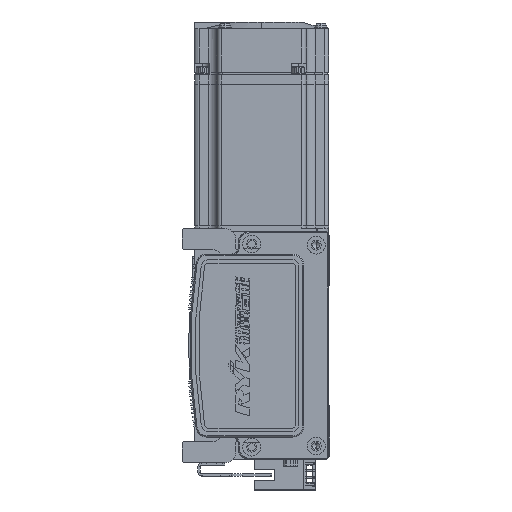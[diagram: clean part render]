
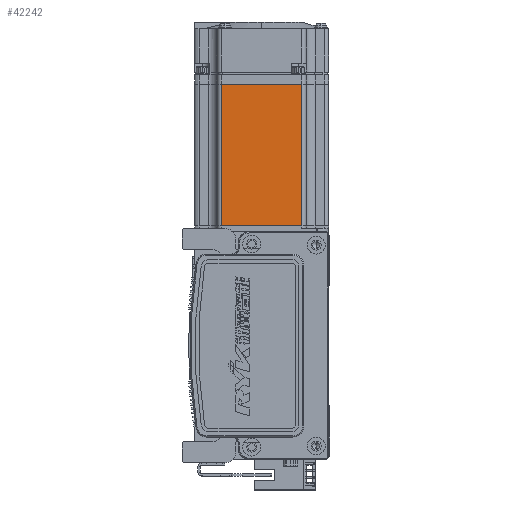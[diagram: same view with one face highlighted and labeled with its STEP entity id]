
A CAD part, left-side view. The second image highlights one B-rep face of the part: STEP entity #42242.
In plain terms, the highlighted planar face has unit normal (-1, 0, 0) as drawn and (0, 0, -1) by its records, which use the part's own axes.
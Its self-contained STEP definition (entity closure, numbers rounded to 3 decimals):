
#567 = CARTESIAN_POINT ( 'NONE',  ( -7.75, 25., -30. ) ) ;
#3927 = FACE_OUTER_BOUND ( 'NONE', #55044, .T. ) ;
#4394 = ORIENTED_EDGE ( 'NONE', *, *, #28924, .T. ) ;
#6753 = VECTOR ( 'NONE', #8641, 1000. ) ;
#8641 = DIRECTION ( 'NONE',  ( 0., 1., 0. ) ) ;
#11557 = VECTOR ( 'NONE', #16629, 1000. ) ;
#13981 = EDGE_CURVE ( 'NONE', #39796, #42177, #14021, .T. ) ;
#14021 = LINE ( 'NONE', #19621, #69891 ) ;
#16629 = DIRECTION ( 'NONE',  ( 0., -1., 0. ) ) ;
#19335 = DIRECTION ( 'NONE',  ( 0., 0., -1. ) ) ;
#19621 = CARTESIAN_POINT ( 'NONE',  ( -6.5, -18., -30. ) ) ;
#22497 = VECTOR ( 'NONE', #39057, 1000. ) ;
#26290 = CARTESIAN_POINT ( 'NONE',  ( -7.75, -18., -30. ) ) ;
#26339 = CARTESIAN_POINT ( 'NONE',  ( -6.5, 18., -30. ) ) ;
#26754 = DIRECTION ( 'NONE',  ( -1., 0., 0. ) ) ;
#28924 = EDGE_CURVE ( 'NONE', #52285, #64261, #51733, .T. ) ;
#30104 = CARTESIAN_POINT ( 'NONE',  ( -7.75, 18., -30. ) ) ;
#33043 = CARTESIAN_POINT ( 'NONE',  ( -70.95, 18., -30. ) ) ;
#37272 = LINE ( 'NONE', #567, #11557 ) ;
#39057 = DIRECTION ( 'NONE',  ( 1., 0., 0. ) ) ;
#39796 = VERTEX_POINT ( 'NONE', #26290 ) ;
#41681 = PLANE ( 'NONE',  #43338 ) ;
#42177 = VERTEX_POINT ( 'NONE', #63747 ) ;
#42242 = ADVANCED_FACE ( 'NONE', ( #3927 ), #41681, .T. ) ;
#43338 = AXIS2_PLACEMENT_3D ( 'NONE', #69281, #19335, #26754 ) ;
#51733 = LINE ( 'NONE', #26339, #22497 ) ;
#52285 = VERTEX_POINT ( 'NONE', #33043 ) ;
#52310 = CARTESIAN_POINT ( 'NONE',  ( -70.95, 25., -30. ) ) ;
#54966 = ORIENTED_EDGE ( 'NONE', *, *, #13981, .T. ) ;
#55044 = EDGE_LOOP ( 'NONE', ( #55253, #54966, #59095, #4394 ) ) ;
#55253 = ORIENTED_EDGE ( 'NONE', *, *, #59662, .T. ) ;
#59095 = ORIENTED_EDGE ( 'NONE', *, *, #68365, .T. ) ;
#59662 = EDGE_CURVE ( 'NONE', #64261, #39796, #37272, .T. ) ;
#63547 = DIRECTION ( 'NONE',  ( -1., 0., 0. ) ) ;
#63747 = CARTESIAN_POINT ( 'NONE',  ( -70.95, -18., -30. ) ) ;
#64261 = VERTEX_POINT ( 'NONE', #30104 ) ;
#68365 = EDGE_CURVE ( 'NONE', #42177, #52285, #70306, .T. ) ;
#69281 = CARTESIAN_POINT ( 'NONE',  ( -6.5, 25., -30. ) ) ;
#69891 = VECTOR ( 'NONE', #63547, 1000. ) ;
#70306 = LINE ( 'NONE', #52310, #6753 ) ;
